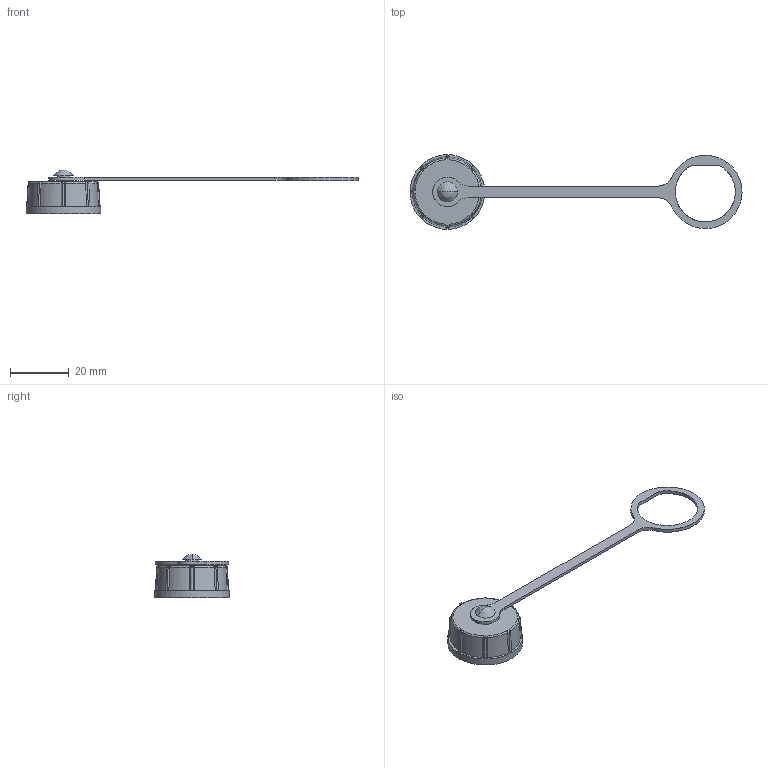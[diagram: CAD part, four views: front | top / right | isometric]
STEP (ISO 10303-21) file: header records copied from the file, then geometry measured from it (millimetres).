
FILE_DESCRIPTION( ('This file contains a STEP AP42 implementation' ,'as created by ZW3D STEP Interface translator.') ,'2;1' );
FILE_NAME( 'TB-008_CCX-WCAP-MRB_SD.stp' ,'26 320.102551', (''), ('ZWCAD Software Co.'), 'Version 1.0', 'ZW3D to STEP translator', '' );
FILE_SCHEMA(('AUTOMOTIVE_DESIGN'));
Length unit declared in the file: millimetre
Products named in the file (2): 0; TB-008_CCX-WCAP-MRB_SD
Bounding box: 113.25 x 25.5 x 15 mm (x, y, z)
Volume: 3263.3 mm3; surface area: 3743.7 mm2
Topology: 2 solids, 2 shells, 92 faces, 221 edges, 135 vertices
Faces by surface type: bspline 92
Entity records: 5289 total; most frequent: CARTESIAN_POINT 3843, ORIENTED_EDGE 438, EDGE_CURVE 219, B_SPLINE_CURVE_WITH_KNOTS 203, VERTEX_POINT 135, EDGE_LOOP 100, FACE_OUTER_BOUND 92, ADVANCED_FACE 92
